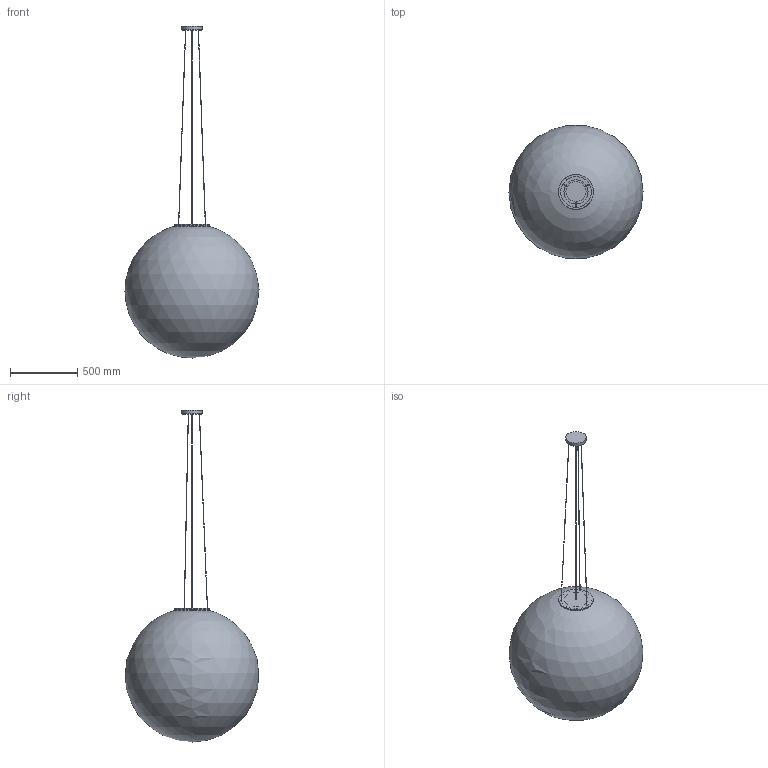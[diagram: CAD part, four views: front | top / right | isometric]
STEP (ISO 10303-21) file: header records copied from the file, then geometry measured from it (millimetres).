
FILE_DESCRIPTION(/* description */ (''),/* implementation_level */ '2;1');
FILE_NAME(/* name */ 'C:/Users/LukasGröber/GMS Cloud/Groeber Mannheim Lichtwerke - Dokumente/Marketing/Produkte/3D CAD Daten/Kugel Sahara Pendel Innen/Kugel Sahara 100 Pendel Innen.step',/* time_stamp */ '2022-07-11T11:08:55+02:00',/* author */ (''),/* organization */ (''),/* preprocessor_version */ 'ST-DEVELOPER v19',/* originating_system */ 'Autodesk Translation Framework v11.7.0.108',/* authorisation */ '');
FILE_SCHEMA (('AUTOMOTIVE_DESIGN { 1 0 10303 214 3 1 1 }'));
Length unit declared in the file: millimetre
Products named in the file (5): Kugel Sahara 100 Pendel Innen; Pendel Innen Aufhängung Kugeln 80-100; Pendel Innen LED Mönchskappe 80-10 (Modell); Baldachin groß Modell; Kugel Sahara 1000 Öffnung 80
Assembly tree (4 placements, depth 3):
  Kugel Sahara 100 Pendel Innen
    Pendel Innen Aufhängung Kugeln 80-100
      Pendel Innen LED Mönchskappe 80-10 (Modell)
      Baldachin groß Modell
    Kugel Sahara 1000 Öffnung 80
Bounding box: 999.86 x 992.44 x 2475.92 mm (x, y, z)
Volume: 16288518.5 mm3; surface area: 6373748.8 mm2
Topology: 7 solids, 7 shells, 41 faces, 58 edges, 37 vertices
Faces by surface type: plane 20, cylinder 12, bspline 6, sphere 2, torus 1
Full cylindrical faces by diameter (mm): 1.5 x6, 3 x3, 150 x1, 180 x1, 260 x1
Entity records: 1352 total; most frequent: CARTESIAN_POINT 491, DIRECTION 176, ORIENTED_EDGE 112, AXIS2_PLACEMENT_3D 82, EDGE_CURVE 56, EDGE_LOOP 49, FACE_OUTER_BOUND 41, ADVANCED_FACE 41
